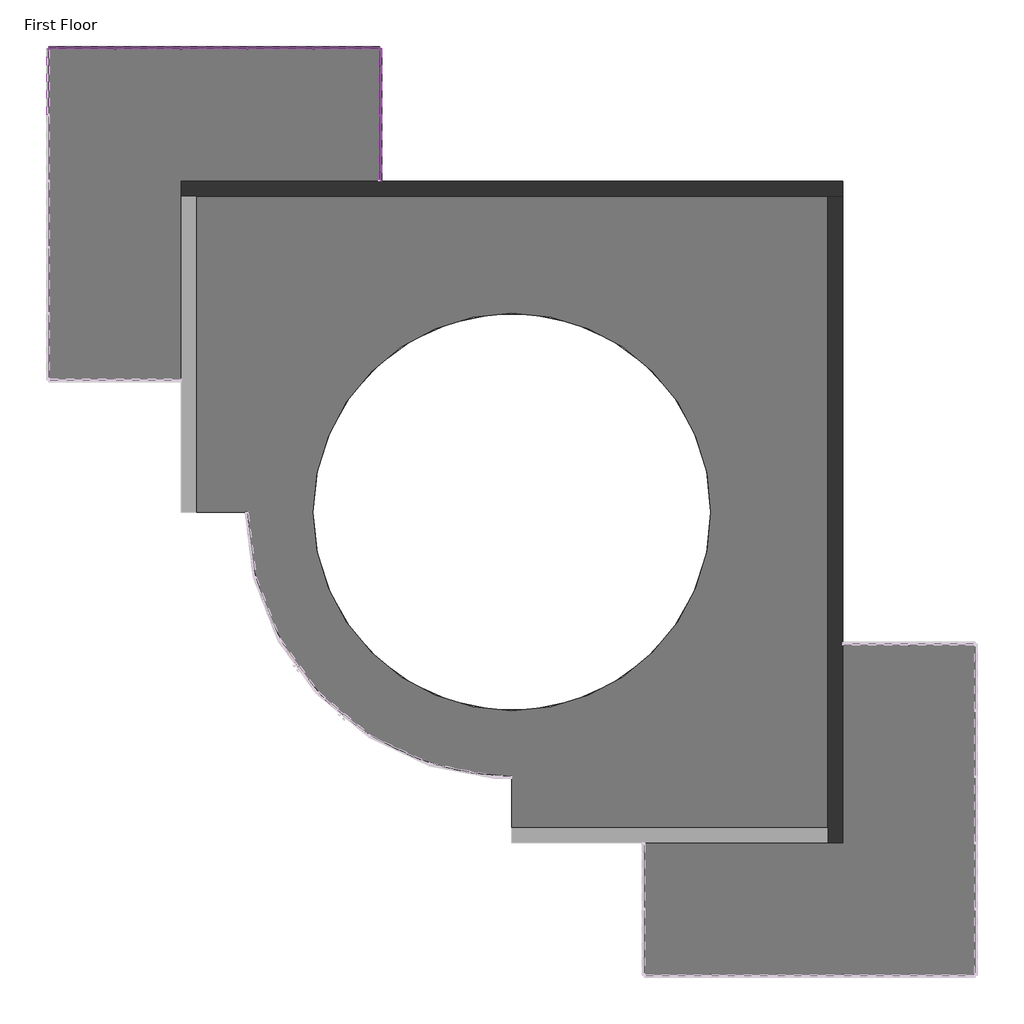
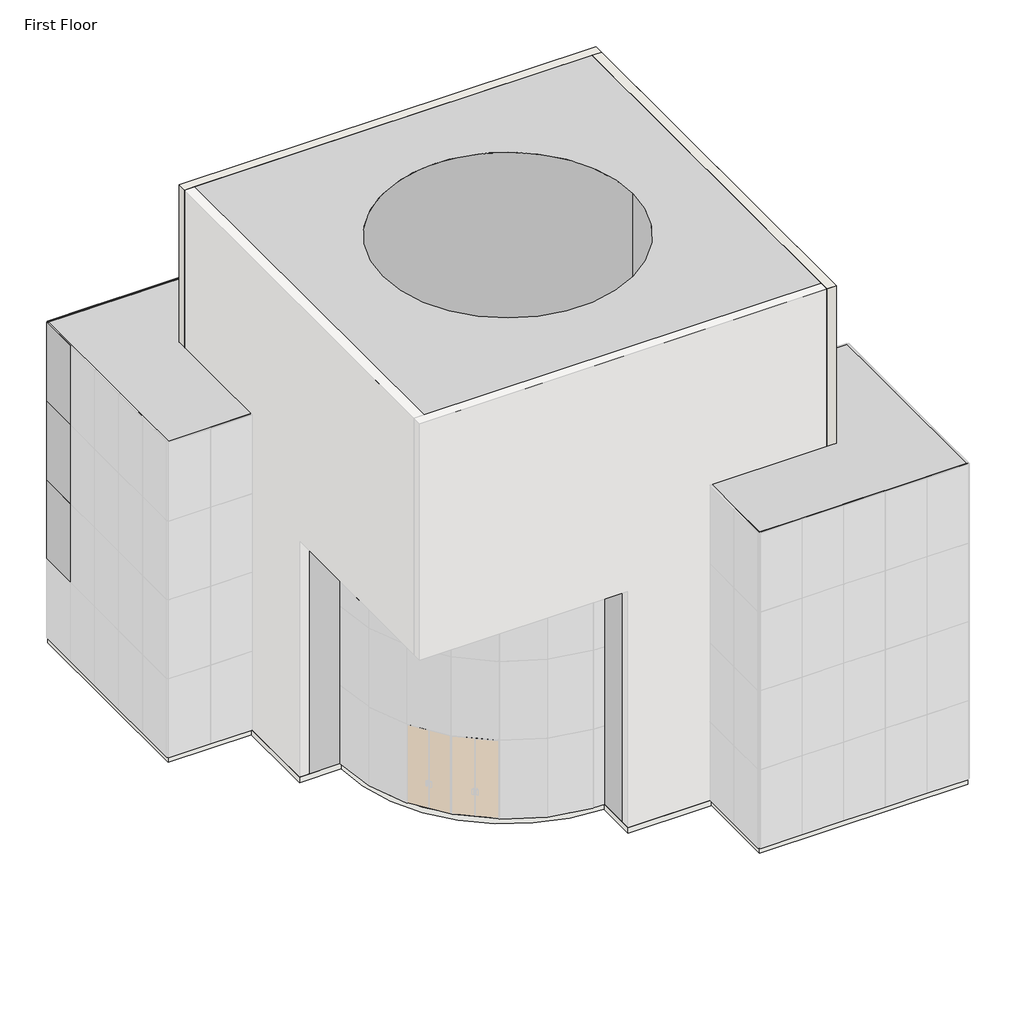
# One storey, part 4 of 4: 71 members, 31 plates, 2 proxies, 2 slabs, 2 walls.
"""IFC4 building model written with IfcOpenShell, lengths in millimetres."""

from ifc_helpers import new_model, si_unit, point, frame, frame_2d, origin, origin_with_axes, place, context, project, spatial, polyline, circle_curve, trimmed, segment, composite_curve, outline, extrude, faceted_brep, transform, mapped, element, save
from ifc_brep_helpers import plane_surface, cylinder_surface, revolved_surface, advanced_brep
from components import rectangular_mullion_30mm_square_353f8307, rectangular_mullion_30mm_square_7a78963c, rectangular_mullion_30mm_square_eb988697, rectangular_mullion_30mm_square_0160e4a9, rectangular_mullion_30mm_square_0f531e6e, rectangular_mullion_30mm_square_5a53314d, system_panel_glazed_8bf869fa

model = new_model("IFC4")

# Units and contexts
model_context = context("Model", 3, world=origin())
ifc_project = project(units=[si_unit("LENGTHUNIT", "METRE", prefix="MILLI")], contexts=[model_context])

# Site, building, storey
site = spatial("IfcSite", under=ifc_project)
building = spatial("IfcBuilding", under=site)
storey = spatial("IfcBuildingStorey", under=building, Name="First Floor", Elevation=0.0)

# Proxies
placement = place(None, origin())
element("IfcBuildingElementProxy", 1, Name="Central Hall : Central Hall", ObjectType="Central Hall : Central Hall", at=placement, inside=storey, context=model_context, shape_type="AdvancedBrep", body=[
    advanced_brep(
    [(8463.0350085, 7792.852658, 0.0), (-6776.9649915, 7792.852658, 0.0), (-6776.9649915, 7792.852658, 18288.0), (8463.0350085, 7792.852658, 18288.0), (-6776.9649915, 172.852658, 0.0), (-6776.9649915, 172.852658, 9144.0), (-6776.9649915, -7447.147342, 9144.0), (-6776.9649915, -7447.147342, 18288.0), (8463.0350085, -7447.147342, 0.0), (8463.0350085, -7447.147342, 18288.0), (843.0350085, -7447.147342, 9144.0), (843.0350085, -7447.147342, 0.0), (5415.0350085, 172.852658, 18288.0), (-3728.9649915, 172.852658, 18288.0), (843.0350085, -5923.147342, 0.0), (-5252.9649915, 172.852658, 0.0), (-3728.9649915, 172.852658, 0.0), (5415.0350085, 172.852658, 0.0), (843.0350085, -5923.147342, 9144.0), (-5252.9649915, 172.852658, 9144.0)],
    [
        (0, 1),
        (1, 2),
        (2, 3),
        (3, 0),
        (1, 4),
        (4, 5),
        (5, 6),
        (6, 7),
        (7, 2),
        (8, 9),
        (9, 7),
        (6, 10),
        (10, 11),
        (11, 8),
        (3, 9),
        (8, 0),
        (12, 13, circle_curve(frame((843.0350085, 172.852658, 18288.0), z_axis=(0.0, 0.0, -1.0), x_axis=(0.0, -1.0, 0.0)), 4572.0)),
        (13, 12, circle_curve(frame((843.0350085, 172.852658, 18288.0), z_axis=(0.0, 0.0, -1.0), x_axis=(0.0, 1.0, 0.0)), 4572.0)),
        (11, 14),
        (14, 15, circle_curve(frame((843.0350085, 172.852658, 0.0), z_axis=(0.0, 0.0, -1.0), x_axis=(-1.0, 0.0, 0.0)), 6096.0)),
        (15, 4),
        (16, 17, circle_curve(frame((843.0350085, 172.852658, 0.0), z_axis=(0.0, 0.0, 1.0), x_axis=(0.0, -1.0, 0.0)), 4572.0)),
        (17, 16, circle_curve(frame((843.0350085, 172.852658, 0.0), z_axis=(0.0, 0.0, 1.0), x_axis=(0.0, 1.0, 0.0)), 4572.0)),
        (16, 13),
        (12, 17),
        (14, 18),
        (18, 19, circle_curve(frame((843.0350085, 172.852658, 9144.0), z_axis=(0.0, 0.0, -1.0), x_axis=(-1.0, 0.0, 0.0)), 6096.0)),
        (19, 15),
        (19, 5),
        (10, 18),
    ],
    [
        plane_surface(frame((843.0350085, 7792.852658, 0.0), z_axis=(0.0, 1.0, 0.0), x_axis=(-1.0, 0.0, 0.0))),
        plane_surface(frame((-6776.9649915, 172.852658, 0.0), z_axis=(-1.0, 0.0, 0.0), x_axis=(0.0, -1.0, 0.0))),
        plane_surface(frame((843.0350085, -7447.147342, 0.0), z_axis=(0.0, -1.0, 0.0), x_axis=(1.0, 0.0, 0.0))),
        plane_surface(frame((8463.0350085, 172.852658, 0.0), z_axis=(1.0, 0.0, 0.0), x_axis=(0.0, 1.0, 0.0))),
        plane_surface(frame((843.0350085, 172.852658, 18288.0), z_axis=(0.0, 0.0, 1.0), x_axis=(1.0, 0.0, 0.0))),
        plane_surface(frame((843.0350085, 172.852658, 0.0), z_axis=(0.0, 0.0, -1.0), x_axis=(0.0, -1.0, 0.0))),
        revolved_surface(polyline([(843.0350085, -4399.147342, 18288.0), (843.0350085, -4399.147342, 0.0)]), (843.0350085, 172.852658, 0.0), (0.0, 0.0, 1.0)),
        revolved_surface(polyline([(843.0350085, 4744.852658, 18288.0), (843.0350085, 4744.852658, 0.0)]), (843.0350085, 172.852658, 0.0), (0.0, 0.0, 1.0)),
        cylinder_surface(frame((843.0350085, 172.852658, 0.0), z_axis=(0.0, 0.0, 1.0), x_axis=(-1.0, 0.0, 0.0)), 6096.0),
        plane_surface(frame((-6014.9649915, 172.852658, 0.0), z_axis=(0.0, -1.0, 0.0), x_axis=(-1.0, 0.0, 0.0))),
        plane_surface(frame((843.0350085, -6685.147342, 0.0), z_axis=(-1.0, 0.0, 0.0), x_axis=(0.0, 1.0, 0.0))),
        plane_surface(frame((-3424.1649915, -4094.347342, 9144.0), z_axis=(0.0, 0.0, -1.0), x_axis=(-1.0, 0.0, 0.0))),
    ],
    [
        (0, [[1, 2, 3, 4]]),
        (1, [[-2, 5, 6, 7, 8, 9]]),
        (2, [[10, 11, -8, 12, 13, 14]]),
        (3, [[-4, 15, -10, 16]]),
        (4, [[-3, -9, -11, -15], [17, 18]]),
        (5, [[-1, -16, -14, 19, 20, 21, -5], [22, 23]]),
        (6, [[24, -17, 25, -22]]),
        (7, [[-24, -23, -25, -18]]),
        (8, [[26, 27, 28, -20]]),
        (9, [[-28, 29, -6, -21]]),
        (10, [[-26, -19, -13, 30]]),
        (11, [[-27, -30, -12, -7, -29]]),
    ],
),
])
element("IfcBuildingElementProxy", 2, Name="Wings : Wings", ObjectType="Wings : Wings", at=placement, inside=storey, context=model_context, shape_type="SweptSolid", body=[
    extrude(outline(polyline([(-2204.9649915, 7792.852658), (-6776.9649915, 7792.852658), (-6776.9649915, 3220.852658), (-9824.9649915, 3220.852658), (-9824.9649915, 10840.852658), (-2204.9649915, 10840.852658), (-2204.9649915, 7792.852658)])), origin_with_axes(), (0.0, 0.0, 1.0), 12192.0),
    extrude(outline(polyline([(8463.0350085, -2875.147342), (11511.0350085, -2875.147342), (11511.0350085, -10495.147342), (3891.0350085, -10495.147342), (3891.0350085, -7447.147342), (8463.0350085, -7447.147342), (8463.0350085, -2875.147342)])), origin_with_axes(), (0.0, 0.0, 1.0), 12192.0),
])

# Members
rectangular_mullion_30mm_square_shape = rectangular_mullion_30mm_square_353f8307(model_context)
element("IfcMember", 3, ObjectType="Rectangular Mullion : 30mm Square", at=placement, inside=storey, context=model_context, shape_type="MappedRepresentation", body=[
    mapped(rectangular_mullion_30mm_square_shape, transform((-9794.9649915, 10840.852658, 12192.0), x_axis=(0.0, 0.0, 1.0), y_axis=(0.0, 1.0, 0.0), z_axis=(-1.0, 0.0, 0.0))),
])
element("IfcMember", 4, ObjectType="Rectangular Mullion : 30mm Square", at=placement, inside=storey, context=model_context, shape_type="MappedRepresentation", body=[
    mapped(rectangular_mullion_30mm_square_shape, transform((-3713.9649915, 10840.852658, 12192.0), x_axis=(0.0, 0.0, 1.0), y_axis=(0.0, 1.0, 0.0), z_axis=(-1.0, 0.0, 0.0))),
])
element("IfcMember", 5, ObjectType="Rectangular Mullion : 30mm Square", at=placement, inside=storey, context=model_context, shape_type="MappedRepresentation", body=[
    mapped(rectangular_mullion_30mm_square_shape, transform((-2204.9649915, 10810.852658, 12192.0), x_axis=(0.0, 0.0, 1.0), y_axis=(1.0, 0.0, 0.0), z_axis=(0.0, 1.0, 0.0))),
])
element("IfcMember", 6, ObjectType="Rectangular Mullion : 30mm Square", at=placement, inside=storey, context=model_context, shape_type="MappedRepresentation", body=[
    mapped(rectangular_mullion_30mm_square_shape, transform((-2204.9649915, 9301.852658, 12192.0), x_axis=(0.0, 0.0, 1.0), y_axis=(1.0, 0.0, 0.0), z_axis=(0.0, 1.0, 0.0))),
])
element("IfcMember", 7, ObjectType="Rectangular Mullion : 30mm Square", at=placement, inside=storey, context=model_context, shape_type="MappedRepresentation", body=[
    mapped(rectangular_mullion_30mm_square_shape, transform((-9824.9649915, 10810.852658, 0.0), x_axis=(0.0, 0.0, -1.0), y_axis=(-1.0, 0.0, 0.0), z_axis=(0.0, 1.0, 0.0))),
])
element("IfcMember", 8, ObjectType="Rectangular Mullion : 30mm Square", at=placement, inside=storey, context=model_context, shape_type="MappedRepresentation", body=[
    mapped(rectangular_mullion_30mm_square_shape, transform((-2234.9649915, 10840.852658, 0.0), x_axis=(0.0, 0.0, -1.0), y_axis=(0.0, 1.0, 0.0), z_axis=(1.0, 0.0, 0.0))),
])
element("IfcMember", 9, ObjectType="Rectangular Mullion : 30mm Square", at=placement, inside=storey, context=model_context, shape_type="MappedRepresentation", body=[
    mapped(rectangular_mullion_30mm_square_shape, transform((-8315.9649915, 10840.852658, 0.0), x_axis=(0.0, 0.0, -1.0), y_axis=(0.0, 1.0, 0.0), z_axis=(1.0, 0.0, 0.0))),
])
element("IfcMember", 10, ObjectType="Rectangular Mullion : 30mm Square", at=placement, inside=storey, context=model_context, shape_type="MappedRepresentation", body=[
    mapped(rectangular_mullion_30mm_square_shape, transform((-2204.9649915, 9331.852658, 0.0), x_axis=(0.0, 0.0, -1.0), y_axis=(1.0, 0.0, 0.0), z_axis=(0.0, -1.0, 0.0))),
])
rectangular_mullion_30mm_square_2_shape = rectangular_mullion_30mm_square_7a78963c(model_context)
element("IfcMember", 11, ObjectType="Rectangular Mullion : 30mm Square", at=placement, inside=storey, context=model_context, shape_type="MappedRepresentation", body=[
    mapped(rectangular_mullion_30mm_square_2_shape, transform((-3728.9649915, 10840.852658, 0.0), x_axis=(-1.0, 0.0, 0.0), y_axis=(0.0, 1.0, 0.0), z_axis=(0.0, 0.0, -1.0))),
])
element("IfcMember", 12, ObjectType="Rectangular Mullion : 30mm Square", at=placement, inside=storey, context=model_context, shape_type="MappedRepresentation", body=[
    mapped(rectangular_mullion_30mm_square_2_shape, transform((-5252.9649915, 10840.852658, 0.0), x_axis=(-1.0, 0.0, 0.0), y_axis=(0.0, 1.0, 0.0), z_axis=(0.0, 0.0, -1.0))),
])
element("IfcMember", 13, ObjectType="Rectangular Mullion : 30mm Square", at=placement, inside=storey, context=model_context, shape_type="MappedRepresentation", body=[
    mapped(rectangular_mullion_30mm_square_2_shape, transform((-6776.9649915, 10840.852658, 0.0), x_axis=(-1.0, 0.0, 0.0), y_axis=(0.0, 1.0, 0.0), z_axis=(0.0, 0.0, -1.0))),
])
element("IfcMember", 14, ObjectType="Rectangular Mullion : 30mm Square", at=placement, inside=storey, context=model_context, shape_type="MappedRepresentation", body=[
    mapped(rectangular_mullion_30mm_square_2_shape, transform((-8300.9649915, 10840.852658, 0.0), x_axis=(-1.0, 0.0, 0.0), y_axis=(0.0, 1.0, 0.0), z_axis=(0.0, 0.0, -1.0))),
])
element("IfcMember", 15, ObjectType="Rectangular Mullion : 30mm Square", at=placement, inside=storey, context=model_context, shape_type="MappedRepresentation", body=[
    mapped(rectangular_mullion_30mm_square_2_shape, transform((-2204.9649915, 9316.852658, 0.0), x_axis=(0.0, 1.0, 0.0), y_axis=(1.0, 0.0, 0.0), z_axis=(0.0, 0.0, -1.0))),
])
rectangular_mullion_30mm_square_3_shape = rectangular_mullion_30mm_square_eb988697(model_context)
element("IfcMember", 16, ObjectType="Rectangular Mullion : 30mm Square", at=placement, inside=storey, context=model_context, shape_type="MappedRepresentation", body=[
    mapped(rectangular_mullion_30mm_square_3_shape, transform((-3713.9649915, 10840.852658, 3048.0), x_axis=(0.0, 0.0, 1.0), y_axis=(0.0, 1.0, 0.0), z_axis=(-1.0, 0.0, 0.0))),
])
element("IfcMember", 17, ObjectType="Rectangular Mullion : 30mm Square", at=placement, inside=storey, context=model_context, shape_type="MappedRepresentation", body=[
    mapped(rectangular_mullion_30mm_square_3_shape, transform((-9794.9649915, 10840.852658, 3048.0), x_axis=(0.0, 0.0, 1.0), y_axis=(0.0, 1.0, 0.0), z_axis=(-1.0, 0.0, 0.0))),
])
element("IfcMember", 18, ObjectType="Rectangular Mullion : 30mm Square", at=placement, inside=storey, context=model_context, shape_type="MappedRepresentation", body=[
    mapped(rectangular_mullion_30mm_square_3_shape, transform((-3713.9649915, 10840.852658, 6096.0), x_axis=(0.0, 0.0, 1.0), y_axis=(0.0, 1.0, 0.0), z_axis=(-1.0, 0.0, 0.0))),
])
element("IfcMember", 19, ObjectType="Rectangular Mullion : 30mm Square", at=placement, inside=storey, context=model_context, shape_type="MappedRepresentation", body=[
    mapped(rectangular_mullion_30mm_square_3_shape, transform((-9794.9649915, 10840.852658, 6096.0), x_axis=(0.0, 0.0, 1.0), y_axis=(0.0, 1.0, 0.0), z_axis=(-1.0, 0.0, 0.0))),
])
element("IfcMember", 20, ObjectType="Rectangular Mullion : 30mm Square", at=placement, inside=storey, context=model_context, shape_type="MappedRepresentation", body=[
    mapped(rectangular_mullion_30mm_square_3_shape, transform((-3713.9649915, 10840.852658, 9144.0), x_axis=(0.0, 0.0, 1.0), y_axis=(0.0, 1.0, 0.0), z_axis=(-1.0, 0.0, 0.0))),
])
element("IfcMember", 21, ObjectType="Rectangular Mullion : 30mm Square", at=placement, inside=storey, context=model_context, shape_type="MappedRepresentation", body=[
    mapped(rectangular_mullion_30mm_square_3_shape, transform((-9794.9649915, 10840.852658, 9144.0), x_axis=(0.0, 0.0, 1.0), y_axis=(0.0, 1.0, 0.0), z_axis=(-1.0, 0.0, 0.0))),
])
element("IfcMember", 22, ObjectType="Rectangular Mullion : 30mm Square", at=placement, inside=storey, context=model_context, shape_type="MappedRepresentation", body=[
    mapped(rectangular_mullion_30mm_square_3_shape, transform((-2204.9649915, 9301.852658, 3048.0), x_axis=(0.0, 0.0, 1.0), y_axis=(1.0, 0.0, 0.0), z_axis=(0.0, 1.0, 0.0))),
])
element("IfcMember", 23, ObjectType="Rectangular Mullion : 30mm Square", at=placement, inside=storey, context=model_context, shape_type="MappedRepresentation", body=[
    mapped(rectangular_mullion_30mm_square_3_shape, transform((-2204.9649915, 10810.852658, 3048.0), x_axis=(0.0, 0.0, 1.0), y_axis=(1.0, 0.0, 0.0), z_axis=(0.0, 1.0, 0.0))),
])
element("IfcMember", 24, ObjectType="Rectangular Mullion : 30mm Square", at=placement, inside=storey, context=model_context, shape_type="MappedRepresentation", body=[
    mapped(rectangular_mullion_30mm_square_3_shape, transform((-2204.9649915, 9301.852658, 6096.0), x_axis=(0.0, 0.0, 1.0), y_axis=(1.0, 0.0, 0.0), z_axis=(0.0, 1.0, 0.0))),
])
element("IfcMember", 25, ObjectType="Rectangular Mullion : 30mm Square", at=placement, inside=storey, context=model_context, shape_type="MappedRepresentation", body=[
    mapped(rectangular_mullion_30mm_square_3_shape, transform((-2204.9649915, 10810.852658, 6096.0), x_axis=(0.0, 0.0, 1.0), y_axis=(1.0, 0.0, 0.0), z_axis=(0.0, 1.0, 0.0))),
])
element("IfcMember", 26, ObjectType="Rectangular Mullion : 30mm Square", at=placement, inside=storey, context=model_context, shape_type="MappedRepresentation", body=[
    mapped(rectangular_mullion_30mm_square_3_shape, transform((-2204.9649915, 9301.852658, 9144.0), x_axis=(0.0, 0.0, 1.0), y_axis=(1.0, 0.0, 0.0), z_axis=(0.0, 1.0, 0.0))),
])
element("IfcMember", 27, ObjectType="Rectangular Mullion : 30mm Square", at=placement, inside=storey, context=model_context, shape_type="MappedRepresentation", body=[
    mapped(rectangular_mullion_30mm_square_3_shape, transform((-2204.9649915, 10810.852658, 9144.0), x_axis=(0.0, 0.0, 1.0), y_axis=(1.0, 0.0, 0.0), z_axis=(0.0, 1.0, 0.0))),
])
rectangular_mullion_30mm_square_4_shape = rectangular_mullion_30mm_square_0160e4a9(model_context)
element("IfcMember", 28, ObjectType="Rectangular Mullion : 30mm Square", at=placement, inside=storey, context=model_context, shape_type="MappedRepresentation", body=[
    mapped(rectangular_mullion_30mm_square_4_shape, transform((-5237.9649915, 10840.852658, 3048.0), x_axis=(0.0, 0.0, 1.0), y_axis=(0.0, 1.0, 0.0), z_axis=(-1.0, 0.0, 0.0))),
])
element("IfcMember", 29, ObjectType="Rectangular Mullion : 30mm Square", at=placement, inside=storey, context=model_context, shape_type="MappedRepresentation", body=[
    mapped(rectangular_mullion_30mm_square_4_shape, transform((-6761.9649915, 10840.852658, 3048.0), x_axis=(0.0, 0.0, 1.0), y_axis=(0.0, 1.0, 0.0), z_axis=(-1.0, 0.0, 0.0))),
])
element("IfcMember", 30, ObjectType="Rectangular Mullion : 30mm Square", at=placement, inside=storey, context=model_context, shape_type="MappedRepresentation", body=[
    mapped(rectangular_mullion_30mm_square_4_shape, transform((-8285.9649915, 10840.852658, 3048.0), x_axis=(0.0, 0.0, 1.0), y_axis=(0.0, 1.0, 0.0), z_axis=(-1.0, 0.0, 0.0))),
])
element("IfcMember", 31, ObjectType="Rectangular Mullion : 30mm Square", at=placement, inside=storey, context=model_context, shape_type="MappedRepresentation", body=[
    mapped(rectangular_mullion_30mm_square_4_shape, transform((-5237.9649915, 10840.852658, 6096.0), x_axis=(0.0, 0.0, 1.0), y_axis=(0.0, 1.0, 0.0), z_axis=(-1.0, 0.0, 0.0))),
])
element("IfcMember", 32, ObjectType="Rectangular Mullion : 30mm Square", at=placement, inside=storey, context=model_context, shape_type="MappedRepresentation", body=[
    mapped(rectangular_mullion_30mm_square_4_shape, transform((-6761.9649915, 10840.852658, 6096.0), x_axis=(0.0, 0.0, 1.0), y_axis=(0.0, 1.0, 0.0), z_axis=(-1.0, 0.0, 0.0))),
])
element("IfcMember", 33, ObjectType="Rectangular Mullion : 30mm Square", at=placement, inside=storey, context=model_context, shape_type="MappedRepresentation", body=[
    mapped(rectangular_mullion_30mm_square_4_shape, transform((-8285.9649915, 10840.852658, 6096.0), x_axis=(0.0, 0.0, 1.0), y_axis=(0.0, 1.0, 0.0), z_axis=(-1.0, 0.0, 0.0))),
])
element("IfcMember", 34, ObjectType="Rectangular Mullion : 30mm Square", at=placement, inside=storey, context=model_context, shape_type="MappedRepresentation", body=[
    mapped(rectangular_mullion_30mm_square_4_shape, transform((-5237.9649915, 10840.852658, 9144.0), x_axis=(0.0, 0.0, 1.0), y_axis=(0.0, 1.0, 0.0), z_axis=(-1.0, 0.0, 0.0))),
])
element("IfcMember", 35, ObjectType="Rectangular Mullion : 30mm Square", at=placement, inside=storey, context=model_context, shape_type="MappedRepresentation", body=[
    mapped(rectangular_mullion_30mm_square_4_shape, transform((-6761.9649915, 10840.852658, 9144.0), x_axis=(0.0, 0.0, 1.0), y_axis=(0.0, 1.0, 0.0), z_axis=(-1.0, 0.0, 0.0))),
])
element("IfcMember", 36, ObjectType="Rectangular Mullion : 30mm Square", at=placement, inside=storey, context=model_context, shape_type="MappedRepresentation", body=[
    mapped(rectangular_mullion_30mm_square_4_shape, transform((-8285.9649915, 10840.852658, 9144.0), x_axis=(0.0, 0.0, 1.0), y_axis=(0.0, 1.0, 0.0), z_axis=(-1.0, 0.0, 0.0))),
])
rectangular_mullion_30mm_square_5_shape = rectangular_mullion_30mm_square_0f531e6e(model_context)
element("IfcMember", 37, ObjectType="Rectangular Mullion : 30mm Square", at=placement, inside=storey, context=model_context, shape_type="MappedRepresentation", body=[
    mapped(rectangular_mullion_30mm_square_5_shape, transform((-3743.9649915, 10840.852658, 0.0), x_axis=(0.0, 0.0, -1.0), y_axis=(0.0, 1.0, 0.0), z_axis=(1.0, 0.0, 0.0))),
])
element("IfcMember", 38, ObjectType="Rectangular Mullion : 30mm Square", at=placement, inside=storey, context=model_context, shape_type="MappedRepresentation", body=[
    mapped(rectangular_mullion_30mm_square_5_shape, transform((-5267.9649915, 10840.852658, 0.0), x_axis=(0.0, 0.0, -1.0), y_axis=(0.0, 1.0, 0.0), z_axis=(1.0, 0.0, 0.0))),
])
element("IfcMember", 39, ObjectType="Rectangular Mullion : 30mm Square", at=placement, inside=storey, context=model_context, shape_type="MappedRepresentation", body=[
    mapped(rectangular_mullion_30mm_square_5_shape, transform((-6791.9649915, 10840.852658, 0.0), x_axis=(0.0, 0.0, -1.0), y_axis=(0.0, 1.0, 0.0), z_axis=(1.0, 0.0, 0.0))),
])
element("IfcMember", 40, ObjectType="Rectangular Mullion : 30mm Square", at=placement, inside=storey, context=model_context, shape_type="MappedRepresentation", body=[
    mapped(rectangular_mullion_30mm_square_5_shape, transform((-5237.9649915, 10840.852658, 12192.0), x_axis=(0.0, 0.0, 1.0), y_axis=(0.0, 1.0, 0.0), z_axis=(-1.0, 0.0, 0.0))),
])
element("IfcMember", 41, ObjectType="Rectangular Mullion : 30mm Square", at=placement, inside=storey, context=model_context, shape_type="MappedRepresentation", body=[
    mapped(rectangular_mullion_30mm_square_5_shape, transform((-6761.9649915, 10840.852658, 12192.0), x_axis=(0.0, 0.0, 1.0), y_axis=(0.0, 1.0, 0.0), z_axis=(-1.0, 0.0, 0.0))),
])
element("IfcMember", 42, ObjectType="Rectangular Mullion : 30mm Square", at=placement, inside=storey, context=model_context, shape_type="MappedRepresentation", body=[
    mapped(rectangular_mullion_30mm_square_5_shape, transform((-8285.9649915, 10840.852658, 12192.0), x_axis=(0.0, 0.0, 1.0), y_axis=(0.0, 1.0, 0.0), z_axis=(-1.0, 0.0, 0.0))),
])
element("IfcMember", 43, ObjectType="Rectangular Mullion : 30mm Square", at=placement, inside=storey, context=model_context, shape_type="MappedRepresentation", body=[
    mapped(rectangular_mullion_30mm_square_2_shape, transform((-3728.9649915, 10840.852658, 3048.0), x_axis=(-1.0, 0.0, 0.0), y_axis=(0.0, 1.0, 0.0), z_axis=(0.0, 0.0, -1.0))),
])
element("IfcMember", 44, ObjectType="Rectangular Mullion : 30mm Square", at=placement, inside=storey, context=model_context, shape_type="MappedRepresentation", body=[
    mapped(rectangular_mullion_30mm_square_2_shape, transform((-3728.9649915, 10840.852658, 6096.0), x_axis=(-1.0, 0.0, 0.0), y_axis=(0.0, 1.0, 0.0), z_axis=(0.0, 0.0, -1.0))),
])
element("IfcMember", 45, ObjectType="Rectangular Mullion : 30mm Square", at=placement, inside=storey, context=model_context, shape_type="MappedRepresentation", body=[
    mapped(rectangular_mullion_30mm_square_2_shape, transform((-5252.9649915, 10840.852658, 3048.0), x_axis=(-1.0, 0.0, 0.0), y_axis=(0.0, 1.0, 0.0), z_axis=(0.0, 0.0, -1.0))),
])
element("IfcMember", 46, ObjectType="Rectangular Mullion : 30mm Square", at=placement, inside=storey, context=model_context, shape_type="MappedRepresentation", body=[
    mapped(rectangular_mullion_30mm_square_2_shape, transform((-5252.9649915, 10840.852658, 6096.0), x_axis=(-1.0, 0.0, 0.0), y_axis=(0.0, 1.0, 0.0), z_axis=(0.0, 0.0, -1.0))),
])
element("IfcMember", 47, ObjectType="Rectangular Mullion : 30mm Square", at=placement, inside=storey, context=model_context, shape_type="MappedRepresentation", body=[
    mapped(rectangular_mullion_30mm_square_2_shape, transform((-6776.9649915, 10840.852658, 3048.0), x_axis=(-1.0, 0.0, 0.0), y_axis=(0.0, 1.0, 0.0), z_axis=(0.0, 0.0, -1.0))),
])
element("IfcMember", 48, ObjectType="Rectangular Mullion : 30mm Square", at=placement, inside=storey, context=model_context, shape_type="MappedRepresentation", body=[
    mapped(rectangular_mullion_30mm_square_2_shape, transform((-6776.9649915, 10840.852658, 6096.0), x_axis=(-1.0, 0.0, 0.0), y_axis=(0.0, 1.0, 0.0), z_axis=(0.0, 0.0, -1.0))),
])
element("IfcMember", 49, ObjectType="Rectangular Mullion : 30mm Square", at=placement, inside=storey, context=model_context, shape_type="MappedRepresentation", body=[
    mapped(rectangular_mullion_30mm_square_2_shape, transform((-8300.9649915, 10840.852658, 3048.0), x_axis=(-1.0, 0.0, 0.0), y_axis=(0.0, 1.0, 0.0), z_axis=(0.0, 0.0, -1.0))),
])
element("IfcMember", 50, ObjectType="Rectangular Mullion : 30mm Square", at=placement, inside=storey, context=model_context, shape_type="MappedRepresentation", body=[
    mapped(rectangular_mullion_30mm_square_2_shape, transform((-8300.9649915, 10840.852658, 6096.0), x_axis=(-1.0, 0.0, 0.0), y_axis=(0.0, 1.0, 0.0), z_axis=(0.0, 0.0, -1.0))),
])
element("IfcMember", 51, ObjectType="Rectangular Mullion : 30mm Square", at=placement, inside=storey, context=model_context, shape_type="MappedRepresentation", body=[
    mapped(rectangular_mullion_30mm_square_2_shape, transform((-2204.9649915, 9316.852658, 3048.0), x_axis=(0.0, 1.0, 0.0), y_axis=(1.0, 0.0, 0.0), z_axis=(0.0, 0.0, -1.0))),
])
element("IfcMember", 52, ObjectType="Rectangular Mullion : 30mm Square", at=placement, inside=storey, context=model_context, shape_type="MappedRepresentation", body=[
    mapped(rectangular_mullion_30mm_square_2_shape, transform((-2204.9649915, 9316.852658, 6096.0), x_axis=(0.0, 1.0, 0.0), y_axis=(1.0, 0.0, 0.0), z_axis=(0.0, 0.0, -1.0))),
])
element("IfcMember", 53, ObjectType="Rectangular Mullion : 30mm Square", at=placement, inside=storey, context=model_context, shape_type="MappedRepresentation", body=[
    mapped(rectangular_mullion_30mm_square_2_shape, transform((-3728.9649915, 10840.852658, 9144.0), x_axis=(-1.0, 0.0, 0.0), y_axis=(0.0, 1.0, 0.0), z_axis=(0.0, 0.0, -1.0))),
])
element("IfcMember", 54, ObjectType="Rectangular Mullion : 30mm Square", at=placement, inside=storey, context=model_context, shape_type="MappedRepresentation", body=[
    mapped(rectangular_mullion_30mm_square_2_shape, transform((-5252.9649915, 10840.852658, 9144.0), x_axis=(-1.0, 0.0, 0.0), y_axis=(0.0, 1.0, 0.0), z_axis=(0.0, 0.0, -1.0))),
])
element("IfcMember", 55, ObjectType="Rectangular Mullion : 30mm Square", at=placement, inside=storey, context=model_context, shape_type="MappedRepresentation", body=[
    mapped(rectangular_mullion_30mm_square_2_shape, transform((-6776.9649915, 10840.852658, 9144.0), x_axis=(-1.0, 0.0, 0.0), y_axis=(0.0, 1.0, 0.0), z_axis=(0.0, 0.0, -1.0))),
])
element("IfcMember", 56, ObjectType="Rectangular Mullion : 30mm Square", at=placement, inside=storey, context=model_context, shape_type="MappedRepresentation", body=[
    mapped(rectangular_mullion_30mm_square_2_shape, transform((-8300.9649915, 10840.852658, 9144.0), x_axis=(-1.0, 0.0, 0.0), y_axis=(0.0, 1.0, 0.0), z_axis=(0.0, 0.0, -1.0))),
])
element("IfcMember", 57, ObjectType="Rectangular Mullion : 30mm Square", at=placement, inside=storey, context=model_context, shape_type="MappedRepresentation", body=[
    mapped(rectangular_mullion_30mm_square_2_shape, transform((-2204.9649915, 9316.852658, 9144.0), x_axis=(0.0, 1.0, 0.0), y_axis=(1.0, 0.0, 0.0), z_axis=(0.0, 0.0, -1.0))),
])
rectangular_mullion_30mm_square_6_shape = rectangular_mullion_30mm_square_5a53314d(model_context)
element("IfcMember", 58, ObjectType="Rectangular Mullion : 30mm Square", at=placement, inside=storey, context=model_context, shape_type="MappedRepresentation", body=[
    mapped(rectangular_mullion_30mm_square_6_shape, transform((-9824.9649915, 10840.852658, 12192.0), x_axis=(0.0, 1.0, 0.0), y_axis=(-1.0, 0.0, 0.0), z_axis=(0.0, 0.0, 1.0))),
])
element("IfcMember", 59, ObjectType="Rectangular Mullion : 30mm Square", at=placement, inside=storey, context=model_context, shape_type="MappedRepresentation", body=[
    mapped(rectangular_mullion_30mm_square_6_shape, transform((-2204.9649915, 10840.852658, 12192.0), x_axis=(1.0, 0.0, 0.0), y_axis=(0.0, 1.0, 0.0), z_axis=(0.0, 0.0, 1.0))),
])
element("IfcMember", 60, ObjectType="Rectangular Mullion : 30mm Square", at=placement, inside=storey, context=model_context, shape_type="MappedRepresentation", body=[
    mapped(rectangular_mullion_30mm_square_6_shape, transform((-9824.9649915, 10840.852658, 0.0), x_axis=(-1.0, 0.0, 0.0), y_axis=(0.0, 1.0, 0.0), z_axis=(0.0, 0.0, -1.0))),
])
element("IfcMember", 61, ObjectType="Rectangular Mullion : 30mm Square", at=placement, inside=storey, context=model_context, shape_type="MappedRepresentation", body=[
    mapped(rectangular_mullion_30mm_square_6_shape, transform((-2204.9649915, 10840.852658, 0.0), x_axis=(0.0, 1.0, 0.0), y_axis=(1.0, 0.0, 0.0), z_axis=(0.0, 0.0, -1.0))),
])
element("IfcMember", 62, ObjectType="Rectangular Mullion : 30mm Square", at=placement, inside=storey, context=model_context, shape_type="MappedRepresentation", body=[
    mapped(rectangular_mullion_30mm_square_6_shape, transform((-9824.9649915, 10840.852658, 3048.0), x_axis=(-1.0, 0.0, 0.0), y_axis=(0.0, 1.0, 0.0), z_axis=(0.0, 0.0, -1.0))),
])
element("IfcMember", 63, ObjectType="Rectangular Mullion : 30mm Square", at=placement, inside=storey, context=model_context, shape_type="MappedRepresentation", body=[
    mapped(rectangular_mullion_30mm_square_6_shape, transform((-9824.9649915, 10840.852658, 6096.0), x_axis=(-1.0, 0.0, 0.0), y_axis=(0.0, 1.0, 0.0), z_axis=(0.0, 0.0, -1.0))),
])
element("IfcMember", 64, ObjectType="Rectangular Mullion : 30mm Square", at=placement, inside=storey, context=model_context, shape_type="MappedRepresentation", body=[
    mapped(rectangular_mullion_30mm_square_6_shape, transform((-2204.9649915, 10840.852658, 3048.0), x_axis=(0.0, 1.0, 0.0), y_axis=(1.0, 0.0, 0.0), z_axis=(0.0, 0.0, -1.0))),
])
element("IfcMember", 65, ObjectType="Rectangular Mullion : 30mm Square", at=placement, inside=storey, context=model_context, shape_type="MappedRepresentation", body=[
    mapped(rectangular_mullion_30mm_square_6_shape, transform((-2204.9649915, 10840.852658, 6096.0), x_axis=(0.0, 1.0, 0.0), y_axis=(1.0, 0.0, 0.0), z_axis=(0.0, 0.0, -1.0))),
])
element("IfcMember", 66, ObjectType="Rectangular Mullion : 30mm Square", at=placement, inside=storey, context=model_context, shape_type="MappedRepresentation", body=[
    mapped(rectangular_mullion_30mm_square_6_shape, transform((-9824.9649915, 10840.852658, 9144.0), x_axis=(-1.0, 0.0, 0.0), y_axis=(0.0, 1.0, 0.0), z_axis=(0.0, 0.0, -1.0))),
])
element("IfcMember", 67, ObjectType="Rectangular Mullion : 30mm Square", at=placement, inside=storey, context=model_context, shape_type="MappedRepresentation", body=[
    mapped(rectangular_mullion_30mm_square_6_shape, transform((-2204.9649915, 10840.852658, 9144.0), x_axis=(0.0, 1.0, 0.0), y_axis=(1.0, 0.0, 0.0), z_axis=(0.0, 0.0, -1.0))),
])
element("IfcMember", 68, ObjectType="Rectangular Mullion : 30mm Square", at=placement, inside=storey, context=model_context, shape_type="MappedRepresentation", body=[
    mapped(rectangular_mullion_30mm_square_6_shape, transform((-9824.9649915, 10840.852658, 3048.0), x_axis=(0.0, 1.0, 0.0), y_axis=(-1.0, 0.0, 0.0), z_axis=(0.0, 0.0, 1.0))),
])
element("IfcMember", 69, ObjectType="Rectangular Mullion : 30mm Square", at=placement, inside=storey, context=model_context, shape_type="MappedRepresentation", body=[
    mapped(rectangular_mullion_30mm_square_6_shape, transform((-2204.9649915, 10840.852658, 3048.0), x_axis=(1.0, 0.0, 0.0), y_axis=(0.0, 1.0, 0.0), z_axis=(0.0, 0.0, 1.0))),
])
element("IfcMember", 70, ObjectType="Rectangular Mullion : 30mm Square", at=placement, inside=storey, context=model_context, shape_type="MappedRepresentation", body=[
    mapped(rectangular_mullion_30mm_square_6_shape, transform((-9824.9649915, 10840.852658, 6096.0), x_axis=(0.0, 1.0, 0.0), y_axis=(-1.0, 0.0, 0.0), z_axis=(0.0, 0.0, 1.0))),
])
element("IfcMember", 71, ObjectType="Rectangular Mullion : 30mm Square", at=placement, inside=storey, context=model_context, shape_type="MappedRepresentation", body=[
    mapped(rectangular_mullion_30mm_square_6_shape, transform((-9824.9649915, 10840.852658, 9144.0), x_axis=(0.0, 1.0, 0.0), y_axis=(-1.0, 0.0, 0.0), z_axis=(0.0, 0.0, 1.0))),
])
element("IfcMember", 72, ObjectType="Rectangular Mullion : 30mm Square", at=placement, inside=storey, context=model_context, shape_type="MappedRepresentation", body=[
    mapped(rectangular_mullion_30mm_square_6_shape, transform((-2204.9649915, 10840.852658, 6096.0), x_axis=(1.0, 0.0, 0.0), y_axis=(0.0, 1.0, 0.0), z_axis=(0.0, 0.0, 1.0))),
])
element("IfcMember", 73, ObjectType="Rectangular Mullion : 30mm Square", at=placement, inside=storey, context=model_context, shape_type="MappedRepresentation", body=[
    mapped(rectangular_mullion_30mm_square_6_shape, transform((-2204.9649915, 10840.852658, 9144.0), x_axis=(1.0, 0.0, 0.0), y_axis=(0.0, 1.0, 0.0), z_axis=(0.0, 0.0, 1.0))),
])

# Plates
system_panel_glazed_shape = system_panel_glazed_8bf869fa(model_context)
element("IfcPlate", 74, ObjectType="System Panel : Glazed", at=placement, inside=storey, context=model_context, shape_type="MappedRepresentation", body=[
    mapped(system_panel_glazed_shape, transform((-9824.9649915, 10078.852658, 3048.0), x_axis=(0.0, -1.0, 0.0), y_axis=(1.0, 0.0, 0.0), z_axis=(0.0, 0.0, 1.0))),
])
element("IfcPlate", 75, ObjectType="System Panel : Glazed", at=placement, inside=storey, context=model_context, shape_type="MappedRepresentation", body=[
    mapped(system_panel_glazed_shape, transform((-9824.9649915, 10078.852658, 6096.0), x_axis=(0.0, -1.0, 0.0), y_axis=(1.0, 0.0, 0.0), z_axis=(0.0, 0.0, 1.0))),
])
element("IfcPlate", 76, ObjectType="System Panel : Glazed", at=placement, inside=storey, context=model_context, shape_type="MappedRepresentation", body=[
    mapped(system_panel_glazed_shape, transform((-9824.9649915, 10078.852658, 9144.0), x_axis=(0.0, -1.0, 0.0), y_axis=(1.0, 0.0, 0.0), z_axis=(0.0, 0.0, 1.0))),
])
element("IfcPlate", 77, ObjectType="System Panel : Glazed", at=placement, inside=storey, context=model_context, shape_type="MappedRepresentation", body=[
    mapped(system_panel_glazed_shape, transform((-2966.9649915, 10840.852658, 0.0), x_axis=(-1.0, 0.0, 0.0), y_axis=(0.0, -1.0, 0.0), z_axis=(0.0, 0.0, 1.0))),
])
element("IfcPlate", 78, ObjectType="System Panel : Glazed", at=placement, inside=storey, context=model_context, shape_type="MappedRepresentation", body=[
    mapped(system_panel_glazed_shape, transform((-4490.9649915, 10840.852658, 0.0), x_axis=(-1.0, 0.0, 0.0), y_axis=(0.0, -1.0, 0.0), z_axis=(0.0, 0.0, 1.0))),
])
element("IfcPlate", 79, ObjectType="System Panel : Glazed", at=placement, inside=storey, context=model_context, shape_type="MappedRepresentation", body=[
    mapped(system_panel_glazed_shape, transform((-6014.9649915, 10840.852658, 0.0), x_axis=(-1.0, 0.0, 0.0), y_axis=(0.0, -1.0, 0.0), z_axis=(0.0, 0.0, 1.0))),
])
element("IfcPlate", 80, ObjectType="System Panel : Glazed", at=placement, inside=storey, context=model_context, shape_type="MappedRepresentation", body=[
    mapped(system_panel_glazed_shape, transform((-7538.9649915, 10840.852658, 0.0), x_axis=(-1.0, 0.0, 0.0), y_axis=(0.0, -1.0, 0.0), z_axis=(0.0, 0.0, 1.0))),
])
element("IfcPlate", 81, ObjectType="System Panel : Glazed", at=placement, inside=storey, context=model_context, shape_type="MappedRepresentation", body=[
    mapped(system_panel_glazed_shape, transform((-9062.9649915, 10840.852658, 0.0), x_axis=(-1.0, 0.0, 0.0), y_axis=(0.0, -1.0, 0.0), z_axis=(0.0, 0.0, 1.0))),
])
element("IfcPlate", 82, ObjectType="System Panel : Glazed", at=placement, inside=storey, context=model_context, shape_type="MappedRepresentation", body=[
    mapped(system_panel_glazed_shape, transform((-2966.9649915, 10840.852658, 3048.0), x_axis=(-1.0, 0.0, 0.0), y_axis=(0.0, -1.0, 0.0), z_axis=(0.0, 0.0, 1.0))),
])
element("IfcPlate", 83, ObjectType="System Panel : Glazed", at=placement, inside=storey, context=model_context, shape_type="MappedRepresentation", body=[
    mapped(system_panel_glazed_shape, transform((-4490.9649915, 10840.852658, 3048.0), x_axis=(-1.0, 0.0, 0.0), y_axis=(0.0, -1.0, 0.0), z_axis=(0.0, 0.0, 1.0))),
])
element("IfcPlate", 84, ObjectType="System Panel : Glazed", at=placement, inside=storey, context=model_context, shape_type="MappedRepresentation", body=[
    mapped(system_panel_glazed_shape, transform((-6014.9649915, 10840.852658, 3048.0), x_axis=(-1.0, 0.0, 0.0), y_axis=(0.0, -1.0, 0.0), z_axis=(0.0, 0.0, 1.0))),
])
element("IfcPlate", 85, ObjectType="System Panel : Glazed", at=placement, inside=storey, context=model_context, shape_type="MappedRepresentation", body=[
    mapped(system_panel_glazed_shape, transform((-7538.9649915, 10840.852658, 3048.0), x_axis=(-1.0, 0.0, 0.0), y_axis=(0.0, -1.0, 0.0), z_axis=(0.0, 0.0, 1.0))),
])
element("IfcPlate", 86, ObjectType="System Panel : Glazed", at=placement, inside=storey, context=model_context, shape_type="MappedRepresentation", body=[
    mapped(system_panel_glazed_shape, transform((-9062.9649915, 10840.852658, 3048.0), x_axis=(-1.0, 0.0, 0.0), y_axis=(0.0, -1.0, 0.0), z_axis=(0.0, 0.0, 1.0))),
])
element("IfcPlate", 87, ObjectType="System Panel : Glazed", at=placement, inside=storey, context=model_context, shape_type="MappedRepresentation", body=[
    mapped(system_panel_glazed_shape, transform((-2966.9649915, 10840.852658, 6096.0), x_axis=(-1.0, 0.0, 0.0), y_axis=(0.0, -1.0, 0.0), z_axis=(0.0, 0.0, 1.0))),
])
element("IfcPlate", 88, ObjectType="System Panel : Glazed", at=placement, inside=storey, context=model_context, shape_type="MappedRepresentation", body=[
    mapped(system_panel_glazed_shape, transform((-4490.9649915, 10840.852658, 6096.0), x_axis=(-1.0, 0.0, 0.0), y_axis=(0.0, -1.0, 0.0), z_axis=(0.0, 0.0, 1.0))),
])
element("IfcPlate", 89, ObjectType="System Panel : Glazed", at=placement, inside=storey, context=model_context, shape_type="MappedRepresentation", body=[
    mapped(system_panel_glazed_shape, transform((-6014.9649915, 10840.852658, 6096.0), x_axis=(-1.0, 0.0, 0.0), y_axis=(0.0, -1.0, 0.0), z_axis=(0.0, 0.0, 1.0))),
])
element("IfcPlate", 90, ObjectType="System Panel : Glazed", at=placement, inside=storey, context=model_context, shape_type="MappedRepresentation", body=[
    mapped(system_panel_glazed_shape, transform((-7538.9649915, 10840.852658, 6096.0), x_axis=(-1.0, 0.0, 0.0), y_axis=(0.0, -1.0, 0.0), z_axis=(0.0, 0.0, 1.0))),
])
element("IfcPlate", 91, ObjectType="System Panel : Glazed", at=placement, inside=storey, context=model_context, shape_type="MappedRepresentation", body=[
    mapped(system_panel_glazed_shape, transform((-9062.9649915, 10840.852658, 6096.0), x_axis=(-1.0, 0.0, 0.0), y_axis=(0.0, -1.0, 0.0), z_axis=(0.0, 0.0, 1.0))),
])
element("IfcPlate", 92, ObjectType="System Panel : Glazed", at=placement, inside=storey, context=model_context, shape_type="MappedRepresentation", body=[
    mapped(system_panel_glazed_shape, transform((-2966.9649915, 10840.852658, 9144.0), x_axis=(-1.0, 0.0, 0.0), y_axis=(0.0, -1.0, 0.0), z_axis=(0.0, 0.0, 1.0))),
])
element("IfcPlate", 93, ObjectType="System Panel : Glazed", at=placement, inside=storey, context=model_context, shape_type="MappedRepresentation", body=[
    mapped(system_panel_glazed_shape, transform((-4490.9649915, 10840.852658, 9144.0), x_axis=(-1.0, 0.0, 0.0), y_axis=(0.0, -1.0, 0.0), z_axis=(0.0, 0.0, 1.0))),
])
element("IfcPlate", 94, ObjectType="System Panel : Glazed", at=placement, inside=storey, context=model_context, shape_type="MappedRepresentation", body=[
    mapped(system_panel_glazed_shape, transform((-6014.9649915, 10840.852658, 9144.0), x_axis=(-1.0, 0.0, 0.0), y_axis=(0.0, -1.0, 0.0), z_axis=(0.0, 0.0, 1.0))),
])
element("IfcPlate", 95, ObjectType="System Panel : Glazed", at=placement, inside=storey, context=model_context, shape_type="MappedRepresentation", body=[
    mapped(system_panel_glazed_shape, transform((-7538.9649915, 10840.852658, 9144.0), x_axis=(-1.0, 0.0, 0.0), y_axis=(0.0, -1.0, 0.0), z_axis=(0.0, 0.0, 1.0))),
])
element("IfcPlate", 96, ObjectType="System Panel : Glazed", at=placement, inside=storey, context=model_context, shape_type="MappedRepresentation", body=[
    mapped(system_panel_glazed_shape, transform((-9062.9649915, 10840.852658, 9144.0), x_axis=(-1.0, 0.0, 0.0), y_axis=(0.0, -1.0, 0.0), z_axis=(0.0, 0.0, 1.0))),
])
element("IfcPlate", 97, ObjectType="System Panel : Glazed", at=placement, inside=storey, context=model_context, shape_type="MappedRepresentation", body=[
    mapped(system_panel_glazed_shape, transform((-2204.9649915, 8554.852658, 0.0), x_axis=(0.0, 1.0, 0.0), y_axis=(-1.0, 0.0, 0.0), z_axis=(0.0, 0.0, 1.0))),
])
element("IfcPlate", 98, ObjectType="System Panel : Glazed", at=placement, inside=storey, context=model_context, shape_type="MappedRepresentation", body=[
    mapped(system_panel_glazed_shape, transform((-2204.9649915, 10078.852658, 0.0), x_axis=(0.0, 1.0, 0.0), y_axis=(-1.0, 0.0, 0.0), z_axis=(0.0, 0.0, 1.0))),
])
element("IfcPlate", 99, ObjectType="System Panel : Glazed", at=placement, inside=storey, context=model_context, shape_type="MappedRepresentation", body=[
    mapped(system_panel_glazed_shape, transform((-2204.9649915, 8554.852658, 3048.0), x_axis=(0.0, 1.0, 0.0), y_axis=(-1.0, 0.0, 0.0), z_axis=(0.0, 0.0, 1.0))),
])
element("IfcPlate", 100, ObjectType="System Panel : Glazed", at=placement, inside=storey, context=model_context, shape_type="MappedRepresentation", body=[
    mapped(system_panel_glazed_shape, transform((-2204.9649915, 10078.852658, 3048.0), x_axis=(0.0, 1.0, 0.0), y_axis=(-1.0, 0.0, 0.0), z_axis=(0.0, 0.0, 1.0))),
])
element("IfcPlate", 101, ObjectType="System Panel : Glazed", at=placement, inside=storey, context=model_context, shape_type="MappedRepresentation", body=[
    mapped(system_panel_glazed_shape, transform((-2204.9649915, 8554.852658, 6096.0), x_axis=(0.0, 1.0, 0.0), y_axis=(-1.0, 0.0, 0.0), z_axis=(0.0, 0.0, 1.0))),
])
element("IfcPlate", 102, ObjectType="System Panel : Glazed", at=placement, inside=storey, context=model_context, shape_type="MappedRepresentation", body=[
    mapped(system_panel_glazed_shape, transform((-2204.9649915, 10078.852658, 6096.0), x_axis=(0.0, 1.0, 0.0), y_axis=(-1.0, 0.0, 0.0), z_axis=(0.0, 0.0, 1.0))),
])
element("IfcPlate", 103, ObjectType="System Panel : Glazed", at=placement, inside=storey, context=model_context, shape_type="MappedRepresentation", body=[
    mapped(system_panel_glazed_shape, transform((-2204.9649915, 8554.852658, 9144.0), x_axis=(0.0, 1.0, 0.0), y_axis=(-1.0, 0.0, 0.0), z_axis=(0.0, 0.0, 1.0))),
])
element("IfcPlate", 104, ObjectType="System Panel : Glazed", at=placement, inside=storey, context=model_context, shape_type="MappedRepresentation", body=[
    mapped(system_panel_glazed_shape, transform((-2204.9649915, 10078.852658, 9144.0), x_axis=(0.0, 1.0, 0.0), y_axis=(-1.0, 0.0, 0.0), z_axis=(0.0, 0.0, 1.0))),
])

# Slabs
element("IfcSlab", 105, ObjectType="160mm Concrete With 50mm Metal Deck", at=placement, inside=storey, context=model_context, shape_type="SweptSolid", body=[
    extrude(outline(composite_curve([segment(polyline([(8463.0350085, 7792.852658), (8463.0350085, -7447.147342), (843.0350085, -7447.147342), (843.0350085, -5923.147342)]), True, "CONTINUOUS"), segment(trimmed(circle_curve(frame_2d((843.0350085, 172.852658)), 6096.0), [point((843.0350085, -5923.147342))], [point((-5252.9649915, 172.852658))], False, "CARTESIAN"), True, "CONTINUOUS"), segment(polyline([(-5252.9649915, 172.852658), (-6776.9649915, 172.852658), (-6776.9649915, 7792.852658), (8463.0350085, 7792.852658)]), True, "CONTINUOUS")], self_intersect=False), holes=[composite_curve([segment(trimmed(circle_curve(frame_2d((843.0350085, 172.852658)), 4572.0), [point((5415.0350085, 172.852658))], [point((-3728.9649915, 172.852658))], True, "CARTESIAN"), True, "CONTINUOUS"), segment(trimmed(circle_curve(frame_2d((843.0350085, 172.852658)), 4572.0), [point((-3728.9649915, 172.852658))], [point((5415.0350085, 172.852658))], True, "CARTESIAN"), True, "CONTINUOUS")], self_intersect=False)]), frame((0.0, 0.0, -210.0), z_axis=(0.0, 0.0, 1.0), x_axis=(1.0, 0.0, 0.0)), (0.0, 0.0, 1.0), 210.0),
])
element("IfcSlab", 106, ObjectType="160mm Concrete With 50mm Metal Deck", at=placement, inside=storey, context=model_context, shape_type="SweptSolid", body=[
    extrude(outline(polyline([(-2204.9649915, 7792.852658), (-6776.9649915, 7792.852658), (-6776.9649915, 3220.852658), (-9824.9649915, 3220.852658), (-9824.9649915, 10840.852658), (-2204.9649915, 10840.852658), (-2204.9649915, 7792.852658)])), frame((0.0, 0.0, -210.0), z_axis=(0.0, 0.0, 1.0), x_axis=(1.0, 0.0, 0.0)), (0.0, 0.0, 1.0), 210.0),
    extrude(outline(polyline([(8463.0350085, -2875.147342), (11511.0350085, -2875.147342), (11511.0350085, -10495.147342), (3891.0350085, -10495.147342), (3891.0350085, -7447.147342), (8463.0350085, -7447.147342), (8463.0350085, -2875.147342)])), frame((0.0, 0.0, -210.0), z_axis=(0.0, 0.0, 1.0), x_axis=(1.0, 0.0, 0.0)), (0.0, 0.0, 1.0), 210.0),
])

# Walls
element("IfcWall", 107, ObjectType="Exterior - Brick on Mtl. Stud", at=placement, inside=storey, context=model_context, shape_type="Brep", body=[
    faceted_brep([(8463.0350085, 7792.852658, 0.0), (-6776.9649915, 7792.852658, 0.0), (-6776.9649915, 7792.852658, 18288.0), (8463.0350085, 7792.852658, 18288.0), (8463.0350085, 7442.852658, 0.0), (8463.0350085, 7442.852658, 18288.0), (8113.0350085, 7442.852658, 18288.0), (-6426.9649915, 7442.852658, 18288.0), (-6776.9649915, 7442.852658, 18288.0), (-6776.9649915, 7442.852658, 0.0), (-6426.9649915, 7442.852658, 0.0), (8113.0350085, 7442.852658, 0.0)], [[[0, 1, 2, 3]], [[4, 5, 6, 7, 8, 9, 10, 11]], [[1, 0, 4, 11, 10, 9]], [[3, 2, 8, 7, 6, 5]], [[0, 3, 5, 4]], [[2, 1, 9, 8]]]),
])
element("IfcWall", 108, ObjectType="Exterior - Brick on Mtl. Stud", at=placement, inside=storey, context=model_context, shape_type="Brep", body=[
    faceted_brep([(8463.0350085, -7447.147342, 0.0), (8463.0350085, 7442.852658, 0.0), (8463.0350085, 7442.852658, 18288.0), (8463.0350085, -7447.147342, 18288.0), (8113.0350085, -7447.147342, 0.0), (8113.0350085, -7447.147342, 18288.0), (8113.0350085, -7097.147342, 18288.0), (8113.0350085, 7442.852658, 18288.0), (8113.0350085, 7442.852658, 0.0), (8113.0350085, -7097.147342, 0.0)], [[[0, 1, 2, 3]], [[4, 5, 6, 7, 8, 9]], [[1, 0, 4, 9, 8]], [[3, 2, 7, 6, 5]], [[2, 1, 8, 7]], [[0, 3, 5, 4]]]),
])

save(model, "model.ifc")
